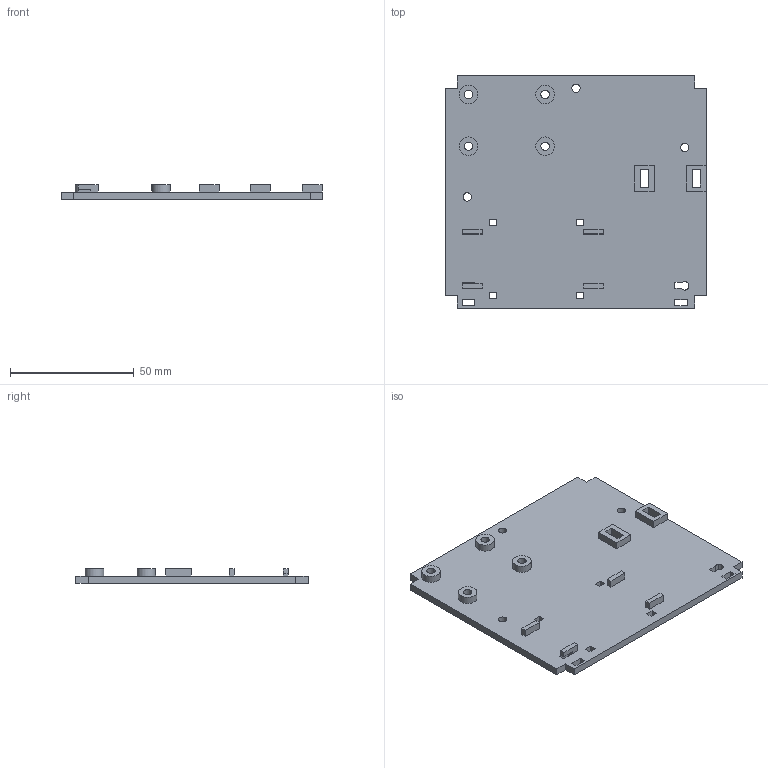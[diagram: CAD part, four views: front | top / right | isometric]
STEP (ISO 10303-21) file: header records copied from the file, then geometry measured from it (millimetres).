
FILE_DESCRIPTION(('Open CASCADE Model'),'2;1');
FILE_NAME('Open CASCADE Shape Model','2026-11-06T11:30:48',('Author'),( 'Open CASCADE'),'Open CASCADE STEP processor 7.8','Open CASCADE 7.8' ,'Unknown');
FILE_SCHEMA(('AUTOMOTIVE_DESIGN { 1 0 10303 214 1 1 1 1 }'));
Length unit declared in the file: millimetre
Products named in the file (1): Open CASCADE STEP translator 7.8 3
Bounding box: 106 x 94 x 6 mm (x, y, z)
Volume: 29969.6 mm3; surface area: 22211.2 mm2
Topology: 1 solids, 1 shells, 103 faces, 275 edges, 183 vertices
Faces by surface type: plane 90, cylinder 13
Full cylindrical faces by diameter (mm): 3.4 x7, 7.5 x4
Entity records: 6619 total; most frequent: CARTESIAN_POINT 1322, DIRECTION 854, LINE 569, VECTOR 569, ORIENTED_EDGE 550, PCURVE 550, DEFINITIONAL_REPRESENTATION 550, EDGE_CURVE 275
